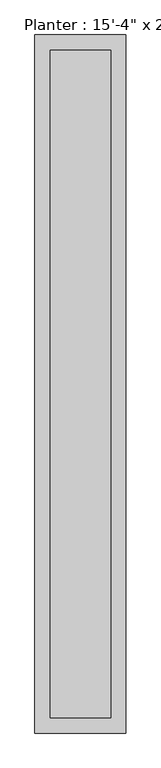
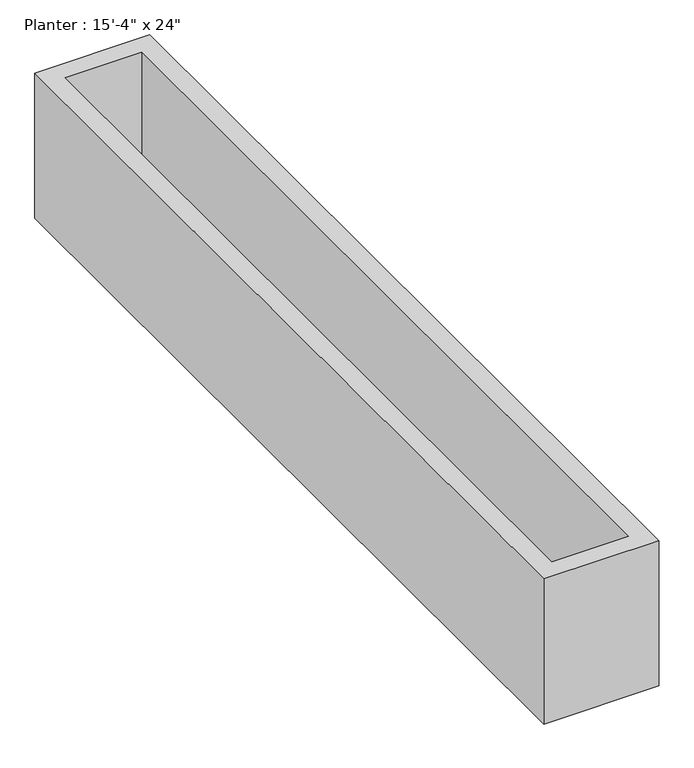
"""IFC4 building model written with IfcOpenShell, lengths in millimetres: geographic element geometry."""

from ifc_helpers import new_model, si_unit, origin, origin_with_axes, place, context, project, spatial, polyline, outline, extrude, faceted_brep, source, transform, mapped, element, save


def geographic_element_2b798763(model_context):
    return source(origin(), model_context, "Body", "SolidModel", [
        extrude(outline(polyline([(203.2, 2235.2), (203.2, -2235.2), (-203.2, -2235.2), (-203.2, 2235.2), (203.2, 2235.2)])), origin_with_axes(), (0.0, 0.0, 1.0), 50.8),
        faceted_brep([(304.8, 2336.8, 863.6), (-304.8, 2336.8, 863.6), (-304.8, -2336.8, 863.6), (304.8, -2336.8, 863.6), (-203.2, 2235.2, 863.6), (203.2, 2235.2, 863.6), (203.2, -2235.2, 863.6), (-203.2, -2235.2, 863.6), (304.8, 2336.8, 50.8), (304.8, -2336.8, 50.8), (-304.8, -2336.8, 50.8), (-304.8, 2336.8, 50.8), (203.2, 2235.2, 152.4), (-203.2, 2235.2, 152.4), (-203.2, -2235.2, 152.4), (203.2, -2235.2, 152.4)], [[[0, 1, 2, 3], [4, 5, 6, 7]], [[8, 9, 10, 11]], [[1, 0, 8, 11]], [[2, 1, 11, 10]], [[3, 2, 10, 9]], [[0, 3, 9, 8]], [[12, 13, 14, 15]], [[13, 12, 5, 4]], [[14, 13, 4, 7]], [[15, 14, 7, 6]], [[12, 15, 6, 5]]]),
    ])


if __name__ == "__main__":
    model = new_model("IFC4")
    model_context = context("Model", 3, world=origin())
    ifc_project = project(units=[si_unit("LENGTHUNIT", "METRE", prefix="MILLI")], contexts=[model_context])
    site = spatial("IfcSite", under=ifc_project)
    building = spatial("IfcBuilding", under=site)
    placement = place(None, origin())
    geographic_element_shape = geographic_element_2b798763(model_context)
    element("IfcGeographicElement", 1, ObjectType="Planter : 15'-4\" x 24\"", at=placement, inside=building, context=model_context, shape_type="MappedRepresentation", body=[
        mapped(geographic_element_shape, transform((0.0, 0.0, 0.0), x_axis=(1.0, 0.0, 0.0), y_axis=(0.0, 1.0, 0.0), z_axis=(0.0, 0.0, 1.0))),
    ])
    save(model, "model.ifc")
